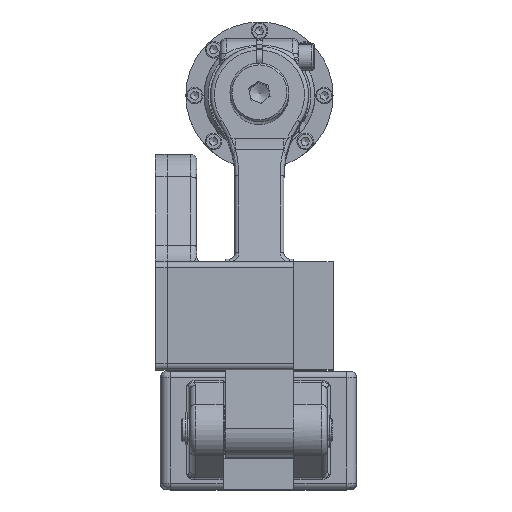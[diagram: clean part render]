
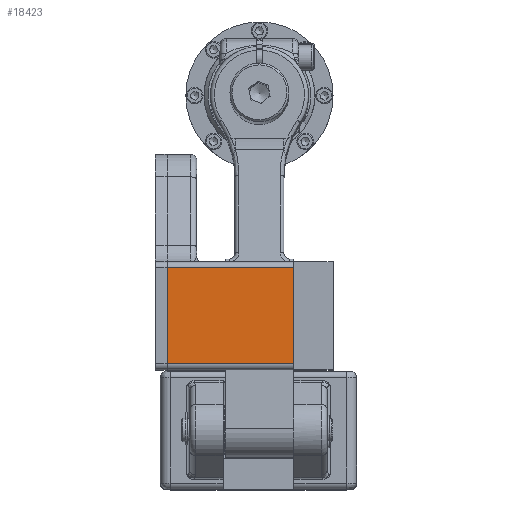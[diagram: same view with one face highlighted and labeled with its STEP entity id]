
A CAD part, top view. The second image highlights one B-rep face of the part: STEP entity #18423.
In plain terms, the highlighted planar face has unit normal (0, 0, 1).
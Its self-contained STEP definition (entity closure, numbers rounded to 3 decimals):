
#708=LINE('',#27284,#2006);
#772=LINE('',#27463,#2070);
#1459=LINE('',#33592,#2757);
#1460=LINE('',#33593,#2758);
#2006=VECTOR('',#21787,10.);
#2070=VECTOR('',#21955,10.);
#2757=VECTOR('',#24630,10.);
#2758=VECTOR('',#24631,10.);
#4155=FACE_OUTER_BOUND('',#5251,.T.);
#5251=EDGE_LOOP('',(#14606,#14607,#14608,#14609));
#6981=VERTEX_POINT('',#27088);
#7051=VERTEX_POINT('',#27259);
#7120=VERTEX_POINT('',#27456);
#7122=VERTEX_POINT('',#27462);
#8926=EDGE_CURVE('',#7051,#6981,#708,.T.);
#9017=EDGE_CURVE('',#7120,#7122,#772,.T.);
#10307=EDGE_CURVE('',#6981,#7120,#1459,.T.);
#10308=EDGE_CURVE('',#7122,#7051,#1460,.T.);
#14606=ORIENTED_EDGE('',*,*,#10307,.F.);
#14607=ORIENTED_EDGE('',*,*,#8926,.F.);
#14608=ORIENTED_EDGE('',*,*,#10308,.F.);
#14609=ORIENTED_EDGE('',*,*,#9017,.F.);
#16732=PLANE('',#20215);
#18423=ADVANCED_FACE('',(#4155),#16732,.T.);
#20215=AXIS2_PLACEMENT_3D('',#33591,#24628,#24629);
#21787=DIRECTION('',(0.,-1.,0.));
#21955=DIRECTION('',(0.,1.,0.));
#24628=DIRECTION('center_axis',(0.,0.,1.));
#24629=DIRECTION('ref_axis',(1.,0.,0.));
#24630=DIRECTION('',(-1.,0.,0.));
#24631=DIRECTION('',(1.,0.,0.));
#27088=CARTESIAN_POINT('',(64.5,3.,90.));
#27259=CARTESIAN_POINT('',(64.5,52.,90.));
#27284=CARTESIAN_POINT('',(64.5,0.,90.));
#27456=CARTESIAN_POINT('',(0.,3.,90.));
#27462=CARTESIAN_POINT('',(0.,52.,90.));
#27463=CARTESIAN_POINT('',(0.,110.,90.));
#33591=CARTESIAN_POINT('Origin',(24.449,47.199,90.));
#33592=CARTESIAN_POINT('',(44.475,3.,90.));
#33593=CARTESIAN_POINT('',(19.725,52.,90.));
